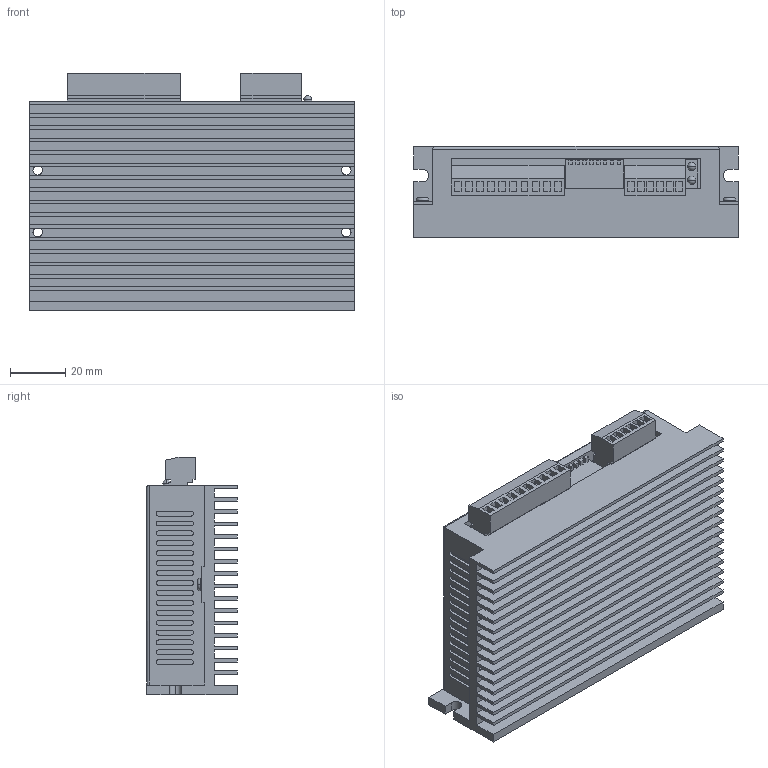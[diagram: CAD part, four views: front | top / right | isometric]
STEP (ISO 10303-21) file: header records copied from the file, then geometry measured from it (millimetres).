
FILE_DESCRIPTION (( 'STEP AP203' ), '1' );
FILE_NAME ('R60-D.STEP', '2023-10-30T02:33:59', ( '' ), ( '' ), 'SwSTEP 2.0', 'SolidWorks 2020', '' );
FILE_SCHEMA (( 'CONFIG_CONTROL_DESIGN' ));
Length unit declared in the file: millimetre
Products named in the file (1): R60-D
Bounding box: 118 x 33 x 86.16 mm (x, y, z)
Volume: 225714.6 mm3; surface area: 67720 mm2
Topology: 1 solids, 1 shells, 497 faces, 1254 edges, 828 vertices
Faces by surface type: plane 371, cylinder 118, sphere 4, torus 4
Entity records: 14845 total; most frequent: CARTESIAN_POINT 2574, ORIENTED_EDGE 2492, DIRECTION 2492, EDGE_CURVE 1246, LINE 992, VECTOR 992, VERTEX_POINT 824, AXIS2_PLACEMENT_3D 750
